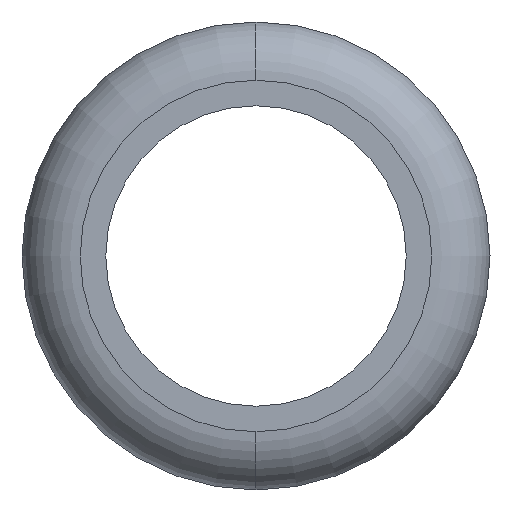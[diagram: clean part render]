
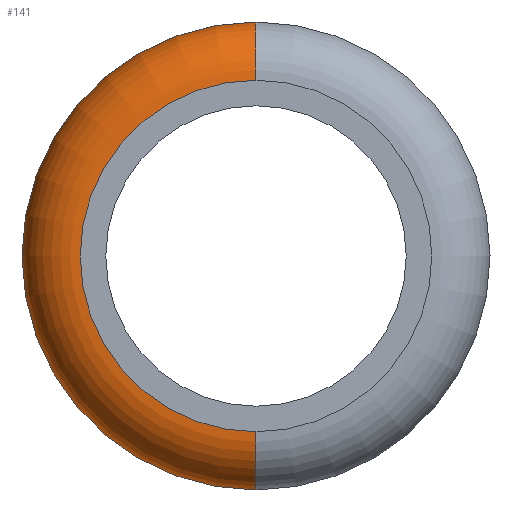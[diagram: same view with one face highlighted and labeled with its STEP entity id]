
A CAD part, left-side view. The second image highlights one B-rep face of the part: STEP entity #141.
In plain terms, the highlighted toroidal (fillet/blend) face has major radius 7.55 mm and minor radius 2.5 mm.
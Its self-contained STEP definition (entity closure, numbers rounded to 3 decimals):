
#141=ADVANCED_FACE('',(#310),#311,.T.);
#310=FACE_OUTER_BOUND('',#514,.T.);
#311=TOROIDAL_SURFACE('',#515,7.55,2.5);
#514=EDGE_LOOP('',(#847,#848,#849,#850));
#515=AXIS2_PLACEMENT_3D('',#851,#852,#853);
#847=ORIENTED_EDGE('',*,*,#1177,.T.);
#848=ORIENTED_EDGE('',*,*,#1240,.F.);
#849=ORIENTED_EDGE('',*,*,#1241,.F.);
#850=ORIENTED_EDGE('',*,*,#1242,.F.);
#851=CARTESIAN_POINT('',(7.,0.0,0.));
#852=DIRECTION('',(-1.0,0.0,0.));
#853=DIRECTION('',(0.,0.0,1.0));
#1177=EDGE_CURVE('',#1352,#1351,#1396,.T.);
#1240=EDGE_CURVE('',#1476,#1351,#1485,.T.);
#1241=EDGE_CURVE('',#1479,#1476,#1486,.T.);
#1242=EDGE_CURVE('',#1352,#1479,#1487,.T.);
#1351=VERTEX_POINT('',#1610);
#1352=VERTEX_POINT('',#1611);
#1396=CIRCLE('',#1655,10.05);
#1476=VERTEX_POINT('',#1747);
#1479=VERTEX_POINT('',#1751);
#1485=CIRCLE('',#1758,2.5);
#1486=CIRCLE('',#1759,7.55);
#1487=CIRCLE('',#1760,2.5);
#1610=CARTESIAN_POINT('',(7.,0.,-10.05));
#1611=CARTESIAN_POINT('',(7.,0.,10.05));
#1655=AXIS2_PLACEMENT_3D('',#1966,#1967,#1968);
#1747=CARTESIAN_POINT('',(4.5,0.,-7.55));
#1751=CARTESIAN_POINT('',(4.5,0.,7.55));
#1758=AXIS2_PLACEMENT_3D('',#2079,#2080,#2081);
#1759=AXIS2_PLACEMENT_3D('',#2082,#2083,#2084);
#1760=AXIS2_PLACEMENT_3D('',#2085,#2086,#2087);
#1966=CARTESIAN_POINT('',(7.,0.0,0.));
#1967=DIRECTION('',(-1.0,0.0,0.));
#1968=DIRECTION('',(0.,0.0,1.0));
#2079=CARTESIAN_POINT('',(7.,0.,-7.55));
#2080=DIRECTION('',(0.,-1.0,0.));
#2081=DIRECTION('',(0.,0.,-1.0));
#2082=CARTESIAN_POINT('',(4.5,0.0,0.));
#2083=DIRECTION('',(-1.0,0.0,0.));
#2084=DIRECTION('',(0.,0.0,-1.0));
#2085=CARTESIAN_POINT('',(7.,0.,7.55));
#2086=DIRECTION('',(0.,-1.0,0.));
#2087=DIRECTION('',(0.,0.,1.0));
